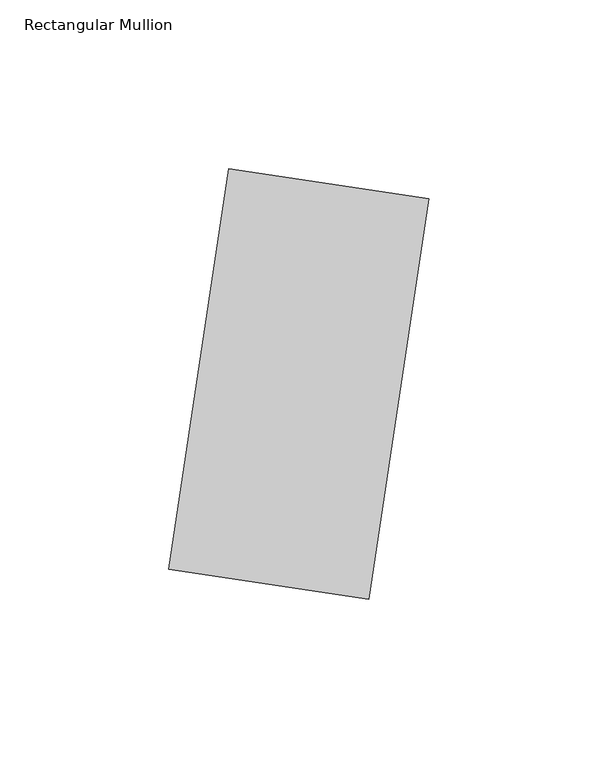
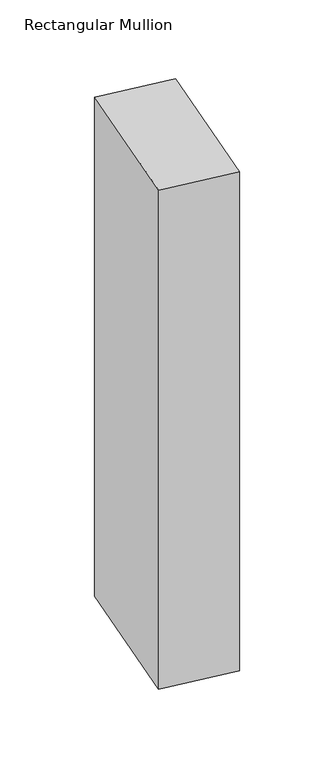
"""IFC4 building model written with IfcOpenShell, lengths in millimetres: member geometry, Rectangular Mullion : TERÇA 6x12 cm."""

from ifc_helpers import new_model, si_unit, frame, origin, place, context, project, spatial, polyline, outline, extrude, source, transform, mapped, element, save


def rectangular_mullion_c1538282(model_context):
    return source(origin(), model_context, "Body", "SweptSolid", [
        extrude(outline(polyline([(-29.6680906, 4.4502136), (-11.8672362, 123.1225759), (47.4689449, 114.2221488), (29.6680906, -4.4502136), (-29.6680906, 4.4502136)])), frame((0.0, 0.0, -420.0), z_axis=(0.0, 0.0, 1.0), x_axis=(1.0, 0.0, 0.0)), (0.0, 0.0, 1.0), 420.0),
    ])


if __name__ == "__main__":
    model = new_model("IFC4")
    model_context = context("Model", 3, world=origin())
    ifc_project = project(units=[si_unit("LENGTHUNIT", "METRE", prefix="MILLI")], contexts=[model_context])
    site = spatial("IfcSite", under=ifc_project)
    building = spatial("IfcBuilding", under=site)
    placement = place(None, origin())
    rectangular_mullion_shape = rectangular_mullion_c1538282(model_context)
    element("IfcMember", 1, ObjectType="Rectangular Mullion : TERÇA 6x12 cm", at=placement, inside=building, context=model_context, shape_type="MappedRepresentation", body=[
        mapped(rectangular_mullion_shape, transform((0.0, 0.0, 0.0), x_axis=(1.0, 0.0, 0.0), y_axis=(0.0, 1.0, 0.0), z_axis=(0.0, 0.0, 1.0))),
    ])
    save(model, "model.ifc")
